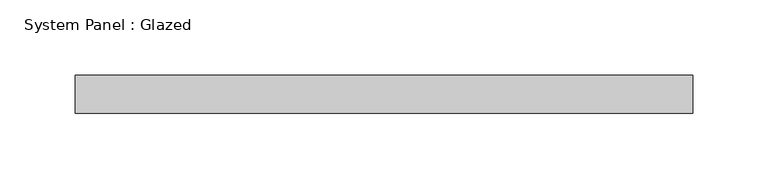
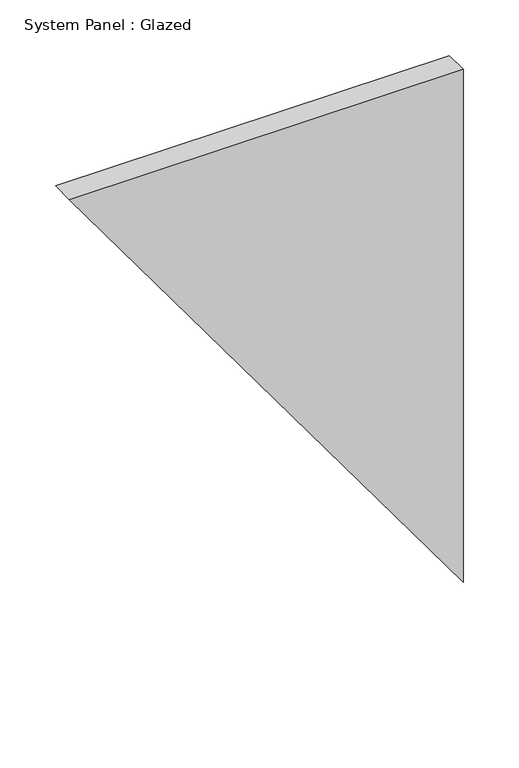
"""IFC4 building model written with IfcOpenShell, lengths in millimetres: plate geometry, System Panel : Glazed."""

from ifc_helpers import new_model, si_unit, frame, origin, place, context, project, spatial, polyline, outline, extrude, source, transform, mapped, element, save


def system_panel_glazed_96eedeeb(model_context):
    return source(origin(), model_context, "Body", "SweptSolid", [
        extrude(outline(polyline([(562.81351, -204.4539752), (0.0, 204.4539752), (562.81351, 204.4539752), (562.81351, -204.4539752)])), frame((0.0, 24.5, 0.0), z_axis=(0.0, 1.0, 0.0), x_axis=(0.0, 0.0, 1.0)), (0.0, 0.0, 1.0), 25.0),
    ])


if __name__ == "__main__":
    model = new_model("IFC4")
    model_context = context("Model", 3, world=origin())
    ifc_project = project(units=[si_unit("LENGTHUNIT", "METRE", prefix="MILLI")], contexts=[model_context])
    site = spatial("IfcSite", under=ifc_project)
    building = spatial("IfcBuilding", under=site)
    placement = place(None, origin())
    system_panel_glazed_shape = system_panel_glazed_96eedeeb(model_context)
    element("IfcPlate", 1, ObjectType="System Panel : Glazed", at=placement, inside=building, context=model_context, shape_type="MappedRepresentation", body=[
        mapped(system_panel_glazed_shape, transform((0.0, 0.0, 0.0), x_axis=(1.0, 0.0, 0.0), y_axis=(0.0, 1.0, 0.0), z_axis=(0.0, 0.0, 1.0))),
    ])
    save(model, "model.ifc")
